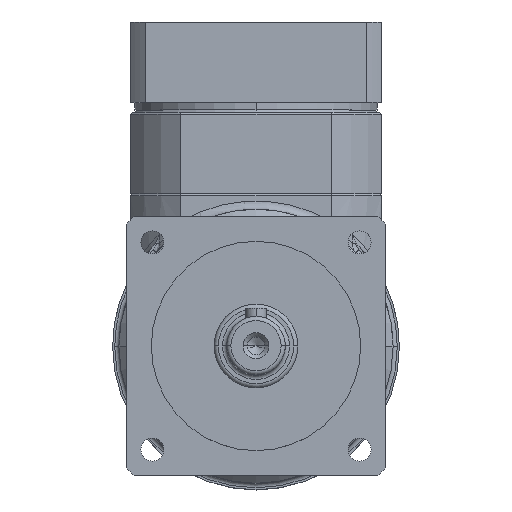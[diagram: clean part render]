
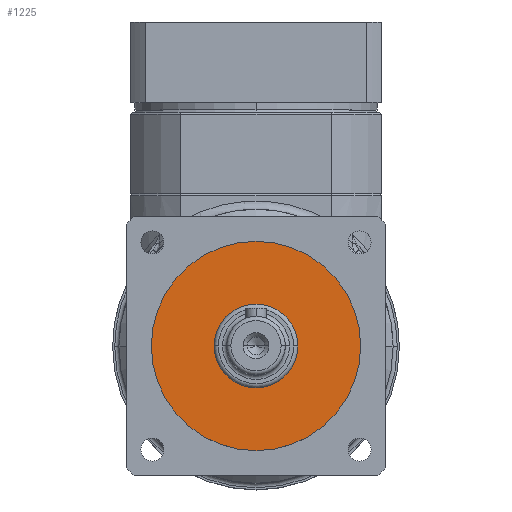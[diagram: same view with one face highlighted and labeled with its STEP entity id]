
A CAD part, top view. The second image highlights one B-rep face of the part: STEP entity #1225.
In plain terms, the highlighted planar face has unit normal (0, 0, 1).
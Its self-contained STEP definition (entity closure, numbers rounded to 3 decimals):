
#21 = DIRECTION ( 'NONE',  ( 0., 0., 1. ) ) ;
#370 = AXIS2_PLACEMENT_3D ( 'NONE', #6262, #5731, #2246 ) ;
#1158 = VERTEX_POINT ( 'NONE', #3378 ) ;
#1225 = ADVANCED_FACE ( 'NONE', ( #2913, #4921 ), #1866, .T. ) ;
#1451 = CARTESIAN_POINT ( 'NONE',  ( 25., 0., 11. ) ) ;
#1455 = CARTESIAN_POINT ( 'NONE',  ( -25., 0., 11. ) ) ;
#1463 = ORIENTED_EDGE ( 'NONE', *, *, #5885, .T. ) ;
#1493 = VERTEX_POINT ( 'NONE', #1455 ) ;
#1573 = VERTEX_POINT ( 'NONE', #5623 ) ;
#1866 = PLANE ( 'NONE',  #2119 ) ;
#2119 = AXIS2_PLACEMENT_3D ( 'NONE', #2422, #5935, #3873 ) ;
#2146 = AXIS2_PLACEMENT_3D ( 'NONE', #3316, #5213, #4332 ) ;
#2246 = DIRECTION ( 'NONE',  ( 1., 0., 0. ) ) ;
#2313 = EDGE_CURVE ( 'NONE', #1573, #1158, #3929, .T. ) ;
#2422 = CARTESIAN_POINT ( 'NONE',  ( 0., 0., 11. ) ) ;
#2732 = EDGE_LOOP ( 'NONE', ( #1463, #3724 ) ) ;
#2872 = EDGE_CURVE ( 'NONE', #1158, #1573, #5506, .T. ) ;
#2913 = FACE_BOUND ( 'NONE', #6413, .T. ) ;
#3316 = CARTESIAN_POINT ( 'NONE',  ( 0., 0., 11. ) ) ;
#3374 = ORIENTED_EDGE ( 'NONE', *, *, #2872, .F. ) ;
#3378 = CARTESIAN_POINT ( 'NONE',  ( 10., 0., 11. ) ) ;
#3724 = ORIENTED_EDGE ( 'NONE', *, *, #4299, .T. ) ;
#3873 = DIRECTION ( 'NONE',  ( 1., 0., 0. ) ) ;
#3878 = ORIENTED_EDGE ( 'NONE', *, *, #2313, .F. ) ;
#3929 = CIRCLE ( 'NONE', #5175, 10. ) ;
#3972 = DIRECTION ( 'NONE',  ( 0., 0., 1. ) ) ;
#4158 = AXIS2_PLACEMENT_3D ( 'NONE', #4909, #21, #6530 ) ;
#4299 = EDGE_CURVE ( 'NONE', #6341, #1493, #6158, .T. ) ;
#4332 = DIRECTION ( 'NONE',  ( 1., 0., 0. ) ) ;
#4909 = CARTESIAN_POINT ( 'NONE',  ( 0., 0., 11. ) ) ;
#4921 = FACE_OUTER_BOUND ( 'NONE', #2732, .T. ) ;
#5110 = CIRCLE ( 'NONE', #4158, 25. ) ;
#5175 = AXIS2_PLACEMENT_3D ( 'NONE', #6482, #3972, #5942 ) ;
#5213 = DIRECTION ( 'NONE',  ( 0., 0., 1. ) ) ;
#5506 = CIRCLE ( 'NONE', #2146, 10. ) ;
#5623 = CARTESIAN_POINT ( 'NONE',  ( -10., 0., 11. ) ) ;
#5731 = DIRECTION ( 'NONE',  ( 0., 0., 1. ) ) ;
#5885 = EDGE_CURVE ( 'NONE', #1493, #6341, #5110, .T. ) ;
#5935 = DIRECTION ( 'NONE',  ( 0., 0., 1. ) ) ;
#5942 = DIRECTION ( 'NONE',  ( 1., 0., 0. ) ) ;
#6158 = CIRCLE ( 'NONE', #370, 25. ) ;
#6262 = CARTESIAN_POINT ( 'NONE',  ( 0., 0., 11. ) ) ;
#6341 = VERTEX_POINT ( 'NONE', #1451 ) ;
#6413 = EDGE_LOOP ( 'NONE', ( #3878, #3374 ) ) ;
#6482 = CARTESIAN_POINT ( 'NONE',  ( 0., 0., 11. ) ) ;
#6530 = DIRECTION ( 'NONE',  ( 1., 0., 0. ) ) ;
